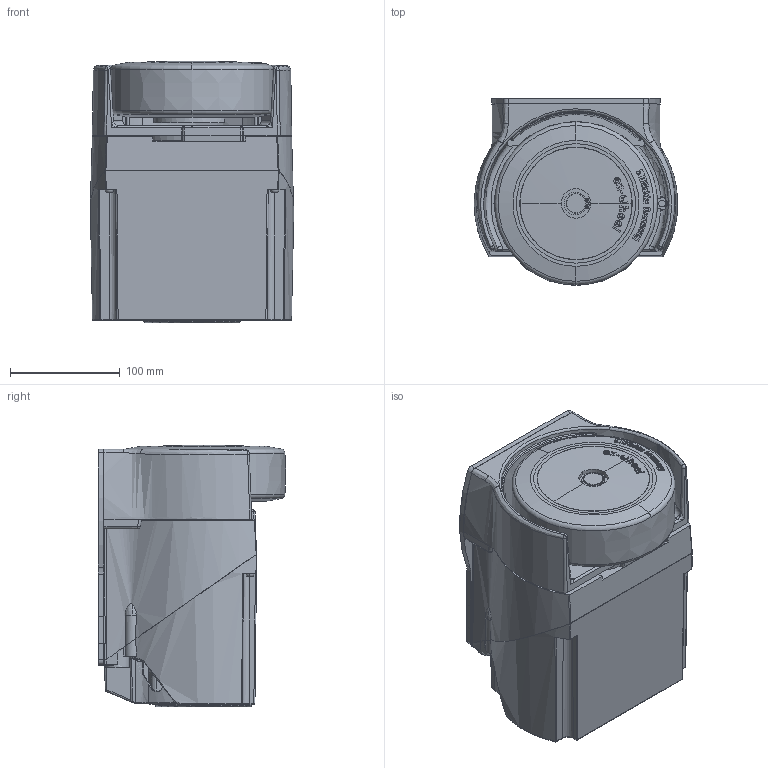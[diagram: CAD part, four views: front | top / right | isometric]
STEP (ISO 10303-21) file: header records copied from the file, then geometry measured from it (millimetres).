
FILE_DESCRIPTION (( 'STEP AP203' ), '1' );
FILE_NAME ('A_202570.STEP', '2018-10-12T14:00:03', ( '' ), ( '' ), 'SwSTEP 2.0', 'SolidWorks 2014', '' );
FILE_SCHEMA (( 'CONFIG_CONTROL_DESIGN' ));
Length unit declared in the file: millimetre
Products named in the file (1): A_202570
Bounding box: 185.98 x 170.73 x 238.58 mm (x, y, z)
Surface area: 413706.7 mm2 (no closed solid volume)
Topology: 0 solids, 49 shells, 954 faces, 3615 edges, 2638 vertices
Faces by surface type: plane 359, cylinder 188, bspline 184, cone 140, torus 59, sphere 24
Entity records: 48704 total; most frequent: CARTESIAN_POINT 20771, ORIENTED_EDGE 5633, DIRECTION 5105, EDGE_CURVE 3610, VERTEX_POINT 2638, AXIS2_PLACEMENT_3D 1877, VECTOR 1351, LINE 1351
